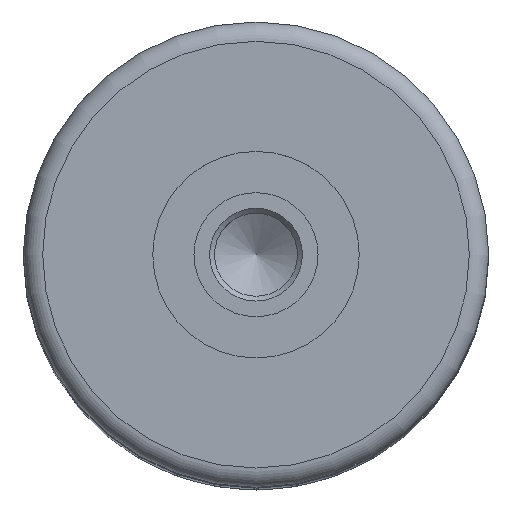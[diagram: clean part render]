
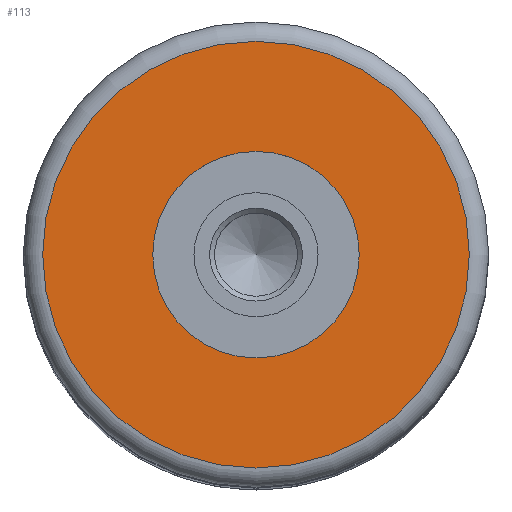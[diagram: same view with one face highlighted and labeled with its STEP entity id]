
A CAD part, top view. The second image highlights one B-rep face of the part: STEP entity #113.
In plain terms, the highlighted planar face has unit normal (0, 0, 1).
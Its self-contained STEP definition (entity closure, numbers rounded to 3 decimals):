
#113=ADVANCED_FACE('',(#200,#201),#202,.T.);
#200=FACE_BOUND('',#309,.T.);
#201=FACE_OUTER_BOUND('',#310,.T.);
#202=PLANE('',#311);
#309=EDGE_LOOP('',(#420));
#310=EDGE_LOOP('',(#421));
#311=AXIS2_PLACEMENT_3D('',#422,#423,#424);
#420=ORIENTED_EDGE('',*,*,#559,.F.);
#421=ORIENTED_EDGE('',*,*,#560,.T.);
#422=CARTESIAN_POINT('',(0.0,0.0,77.5));
#423=DIRECTION('',(0.0,0.0,1.0));
#424=DIRECTION('',(1.0,0.0,0.0));
#559=EDGE_CURVE('',#616,#616,#617,.T.);
#560=EDGE_CURVE('',#618,#618,#619,.T.);
#616=VERTEX_POINT('',#692);
#617=CIRCLE('',#693,10.65);
#618=VERTEX_POINT('',#694);
#619=CIRCLE('',#695,22.0);
#692=CARTESIAN_POINT('',(10.65,0.0,77.5));
#693=AXIS2_PLACEMENT_3D('',#959,#960,#961);
#694=CARTESIAN_POINT('',(22.0,0.0,77.5));
#695=AXIS2_PLACEMENT_3D('',#962,#963,#964);
#959=CARTESIAN_POINT('',(0.0,0.0,77.5));
#960=DIRECTION('',(0.0,0.0,1.0));
#961=DIRECTION('',(1.0,0.0,0.0));
#962=CARTESIAN_POINT('',(0.0,0.0,77.5));
#963=DIRECTION('',(0.0,0.0,1.0));
#964=DIRECTION('',(1.0,0.0,0.0));
